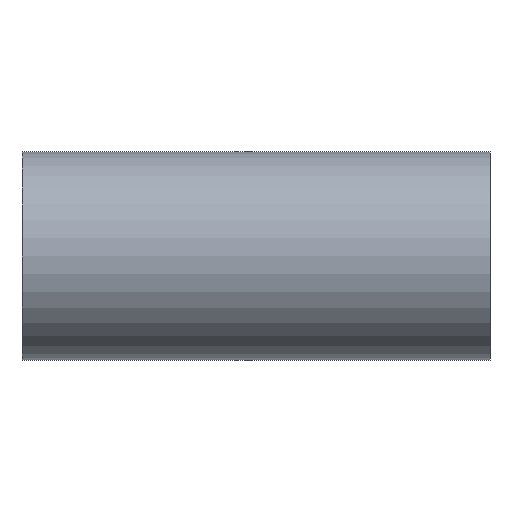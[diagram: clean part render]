
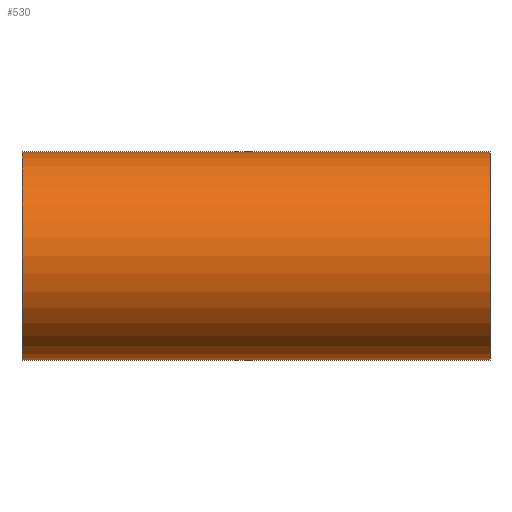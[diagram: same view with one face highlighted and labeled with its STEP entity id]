
A CAD part, front view. The second image highlights one B-rep face of the part: STEP entity #530.
In plain terms, the highlighted cylindrical face has radius 38.1 mm (diameter 76.2 mm), a partial arc.
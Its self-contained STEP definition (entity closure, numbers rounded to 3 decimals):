
#6 = LINE ( 'NONE', #935, #1158 ) ;
#33 = DIRECTION ( 'NONE',  ( 1., 0., 0. ) ) ;
#50 = DIRECTION ( 'NONE',  ( 0., 0., -1. ) ) ;
#53 = DIRECTION ( 'NONE',  ( -1., 0., 0. ) ) ;
#56 = ORIENTED_EDGE ( 'NONE', *, *, #1212, .T. ) ;
#58 = CARTESIAN_POINT ( 'NONE',  ( 85.7, 0., 0. ) ) ;
#88 = DIRECTION ( 'NONE',  ( 0., 0., -1. ) ) ;
#128 = ORIENTED_EDGE ( 'NONE', *, *, #411, .T. ) ;
#195 = CARTESIAN_POINT ( 'NONE',  ( -85.7, 0., 0. ) ) ;
#213 = VERTEX_POINT ( 'NONE', #719 ) ;
#231 = CIRCLE ( 'NONE', #247, 38.1 ) ;
#247 = AXIS2_PLACEMENT_3D ( 'NONE', #1215, #33, #1187 ) ;
#254 = VERTEX_POINT ( 'NONE', #700 ) ;
#317 = VECTOR ( 'NONE', #735, 1000. ) ;
#352 = ORIENTED_EDGE ( 'NONE', *, *, #777, .F. ) ;
#382 = DIRECTION ( 'NONE',  ( 1., 0., 0. ) ) ;
#411 = EDGE_CURVE ( 'NONE', #1161, #213, #1078, .T. ) ;
#429 = EDGE_LOOP ( 'NONE', ( #352, #56, #586, #128 ) ) ;
#447 = DIRECTION ( 'NONE',  ( 1., 0., 0. ) ) ;
#530 = ADVANCED_FACE ( 'NONE', ( #1171 ), #910, .T. ) ;
#586 = ORIENTED_EDGE ( 'NONE', *, *, #677, .T. ) ;
#603 = LINE ( 'NONE', #1018, #317 ) ;
#677 = EDGE_CURVE ( 'NONE', #984, #1161, #6, .T. ) ;
#700 = CARTESIAN_POINT ( 'NONE',  ( -85.7, 0., 38.1 ) ) ;
#709 = CARTESIAN_POINT ( 'NONE',  ( -85.7, 0., -38.1 ) ) ;
#719 = CARTESIAN_POINT ( 'NONE',  ( 85.7, 0., 38.1 ) ) ;
#735 = DIRECTION ( 'NONE',  ( 1., 0., 0. ) ) ;
#764 = AXIS2_PLACEMENT_3D ( 'NONE', #195, #382, #88 ) ;
#777 = EDGE_CURVE ( 'NONE', #254, #213, #603, .T. ) ;
#910 = CYLINDRICAL_SURFACE ( 'NONE', #764, 38.1 ) ;
#935 = CARTESIAN_POINT ( 'NONE',  ( -85.7, 0., -38.1 ) ) ;
#984 = VERTEX_POINT ( 'NONE', #709 ) ;
#1018 = CARTESIAN_POINT ( 'NONE',  ( -85.7, 0., 38.1 ) ) ;
#1065 = CARTESIAN_POINT ( 'NONE',  ( 85.7, 0., -38.1 ) ) ;
#1078 = CIRCLE ( 'NONE', #1245, 38.1 ) ;
#1158 = VECTOR ( 'NONE', #447, 1000. ) ;
#1161 = VERTEX_POINT ( 'NONE', #1065 ) ;
#1171 = FACE_OUTER_BOUND ( 'NONE', #429, .T. ) ;
#1187 = DIRECTION ( 'NONE',  ( 0., 0., -1. ) ) ;
#1212 = EDGE_CURVE ( 'NONE', #254, #984, #231, .T. ) ;
#1215 = CARTESIAN_POINT ( 'NONE',  ( -85.7, 0., 0. ) ) ;
#1245 = AXIS2_PLACEMENT_3D ( 'NONE', #58, #53, #50 ) ;
